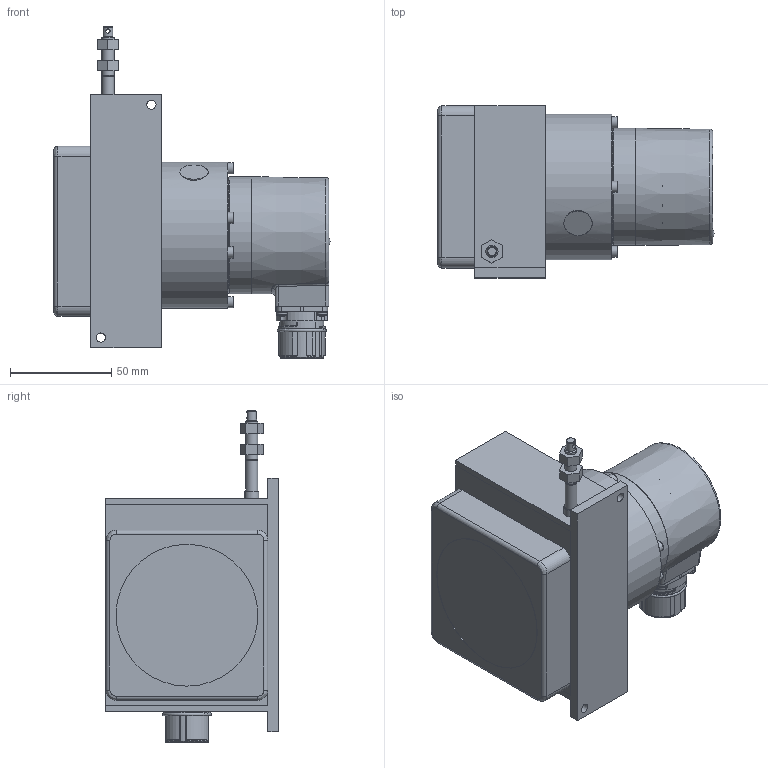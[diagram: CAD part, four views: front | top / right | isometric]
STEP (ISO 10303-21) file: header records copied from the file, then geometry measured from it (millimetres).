
FILE_DESCRIPTION (( 'STEP AP203' ), '1' );
FILE_NAME ('D8.1106.F324.G223.STEP', '2017-01-16T14:20:18', ( '' ), ( '' ), 'SwSTEP 2.0', 'SolidWorks 2013', '' );
FILE_SCHEMA (( 'CONFIG_CONTROL_DESIGN' ));
Products named in the file (1): D8.1106.F324.G223
Bounding box: 136.4 x 85 x 163.9 mm (x, y, z)
Volume: 598633.5 mm3; surface area: 131102 mm2
Topology: 37 solids, 37 shells, 1226 faces, 2802 edges, 1746 vertices
Faces by surface type: plane 468, cylinder 366, bspline 156, cone 125, torus 73, sphere 38
Full cylindrical faces by diameter (mm): 0.5 x12, 0.54 x1, 0.7 x12, 1 x12, 1.1 x12, 1.295 x1, 1.367 x1, 1.5 x12, 2 x36, 2.05 x10, 2.1 x1, 2.2 x5, 2.5 x16, 2.6 x10, 2.9 x1, 3 x2, 3.2 x1, 3.3 x3, 3.5 x1, 4.5 x2, 4.7 x1, 5 x4, 5.1 x2, 5.2 x1, 5.5 x6, 6 x5, 6.8 x1, 7 x1, 7.9 x1, 8 x1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
Entity records: 38976 total; most frequent: CARTESIAN_POINT 14056, DIRECTION 4998, ORIENTED_EDGE 4654, EDGE_CURVE 2327, AXIS2_PLACEMENT_3D 2056, EDGE_LOOP 1762, VERTEX_POINT 1659, FACE_OUTER_BOUND 1484
